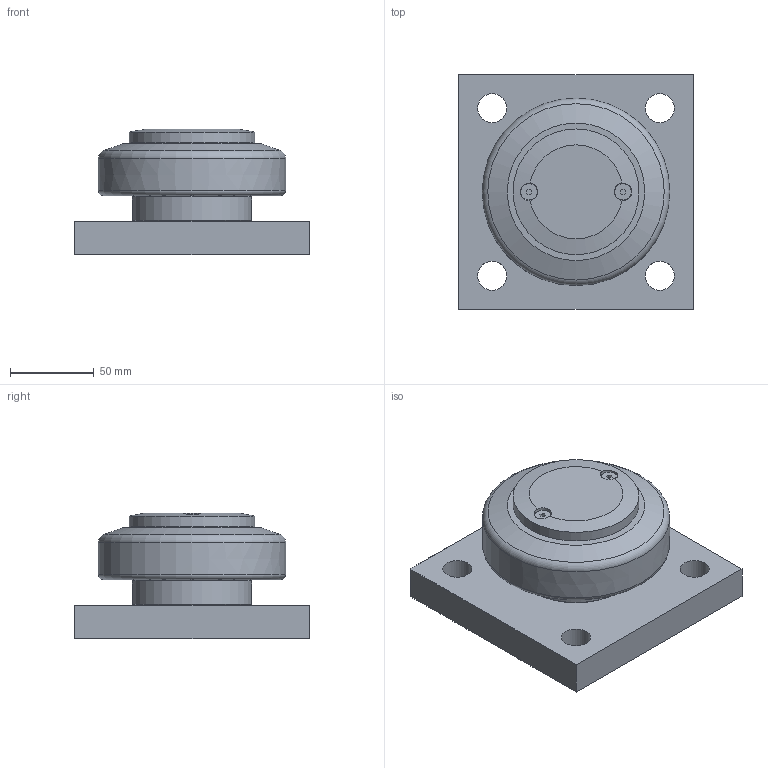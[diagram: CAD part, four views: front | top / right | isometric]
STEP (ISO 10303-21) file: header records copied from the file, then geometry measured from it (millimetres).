
FILE_DESCRIPTION(/* description */ ('-','CAx-IF Rec.Pracs.---Representation and Presentation of Product Manufacturing Information (PMI)---4.0---2014-10-13'),/* implementation_level */ '2;1');
FILE_NAME(/* name */ 'c:\temp\12d38733-a322-408f-94cb-6dfbc57ffe7f\7128896f-f007-45b2-9b60-8229e1d644f8.stp',/* time_stamp */ '2020-04-01T16:19:23+02:00',/* author */ ('-'),/* organization */ ('NTI CADcenter A/S'),/* preprocessor_version */ 'ST-DEVELOPER v18',/* originating_system */ 'Autodesk Inventor 2020',/* authorisation */ '-');
FILE_SCHEMA (('AP242_MANAGED_MODEL_BASED_3D_ENGINEERING_MIM_LF { 1 0 10303 442 1 1 4 }'));
Length unit declared in the file: millimetre
Products named in the file (1): PT 110.0362 BQ1000_Kontur
Bounding box: 140 x 140 x 74.9 mm (x, y, z)
Volume: 759179.9 mm3; surface area: 79406.4 mm2
Topology: 1 solids, 1 shells, 48 faces, 128 edges, 89 vertices
Faces by surface type: plane 27, cylinder 12, cone 6, torus 2, bspline 1
Full cylindrical faces by diameter (mm): 9.75 x2, 10.4 x2, 17.294 x4, 70.5 x1, 71 x1, 71.6 x1, 75 x1
Entity records: 1649 total; most frequent: CARTESIAN_POINT 332, DIRECTION 278, ORIENTED_EDGE 256, EDGE_CURVE 128, AXIS2_PLACEMENT_3D 106, VERTEX_POINT 89, LINE 66, VECTOR 66
